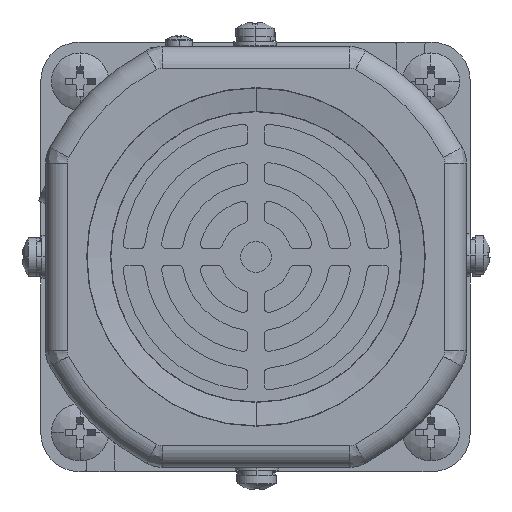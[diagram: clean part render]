
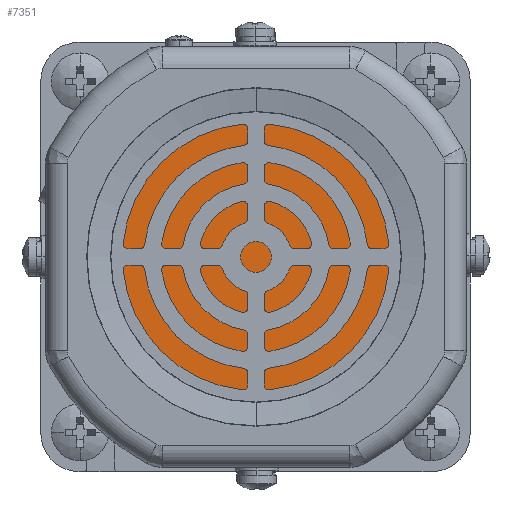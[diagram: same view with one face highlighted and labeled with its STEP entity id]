
A CAD part, left-side view. The second image highlights one B-rep face of the part: STEP entity #7351.
In plain terms, the highlighted planar face has unit normal (-1, 0, 0).
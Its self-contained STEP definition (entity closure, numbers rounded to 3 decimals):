
#2425 = DIRECTION ( 'NONE',  ( 1., 0., 0. ) ) ;
#3096 = DIRECTION ( 'NONE',  ( -1., 0., 0. ) ) ;
#6152 = FACE_OUTER_BOUND ( 'NONE', #7291, .T. ) ;
#7291 = EDGE_LOOP ( 'NONE', ( #40368, #44932 ) ) ;
#7351 = ADVANCED_FACE ( 'NONE', ( #6152 ), #21199, .F. ) ;
#12767 = CARTESIAN_POINT ( 'NONE',  ( 2487.292, -775.254, 0. ) ) ;
#12893 = CARTESIAN_POINT ( 'NONE',  ( 2487.292, -813.654, 0. ) ) ;
#16724 = AXIS2_PLACEMENT_3D ( 'NONE', #36862, #3096, #18130 ) ;
#17257 = AXIS2_PLACEMENT_3D ( 'NONE', #12767, #27796, #42829 ) ;
#17459 = DIRECTION ( 'NONE',  ( 0., 1., 0. ) ) ;
#18130 = DIRECTION ( 'NONE',  ( 0., -1., 0. ) ) ;
#21199 = PLANE ( 'NONE',  #21558 ) ;
#21558 = AXIS2_PLACEMENT_3D ( 'NONE', #36185, #2425, #17459 ) ;
#22444 = VERTEX_POINT ( 'NONE', #12893 ) ;
#24603 = VERTEX_POINT ( 'NONE', #34390 ) ;
#27796 = DIRECTION ( 'NONE',  ( -1., 0., 0. ) ) ;
#33173 = EDGE_CURVE ( 'NONE', #22444, #24603, #38507, .T. ) ;
#34390 = CARTESIAN_POINT ( 'NONE',  ( 2487.292, -736.854, 0. ) ) ;
#36185 = CARTESIAN_POINT ( 'NONE',  ( 2487.292, -775.254, 0. ) ) ;
#36862 = CARTESIAN_POINT ( 'NONE',  ( 2487.292, -775.254, 0. ) ) ;
#37992 = CIRCLE ( 'NONE', #16724, 38.4 ) ;
#38507 = CIRCLE ( 'NONE', #17257, 38.4 ) ;
#39195 = EDGE_CURVE ( 'NONE', #24603, #22444, #37992, .T. ) ;
#40368 = ORIENTED_EDGE ( 'NONE', *, *, #33173, .T. ) ;
#42829 = DIRECTION ( 'NONE',  ( 0., -1., 0. ) ) ;
#44932 = ORIENTED_EDGE ( 'NONE', *, *, #39195, .T. ) ;
